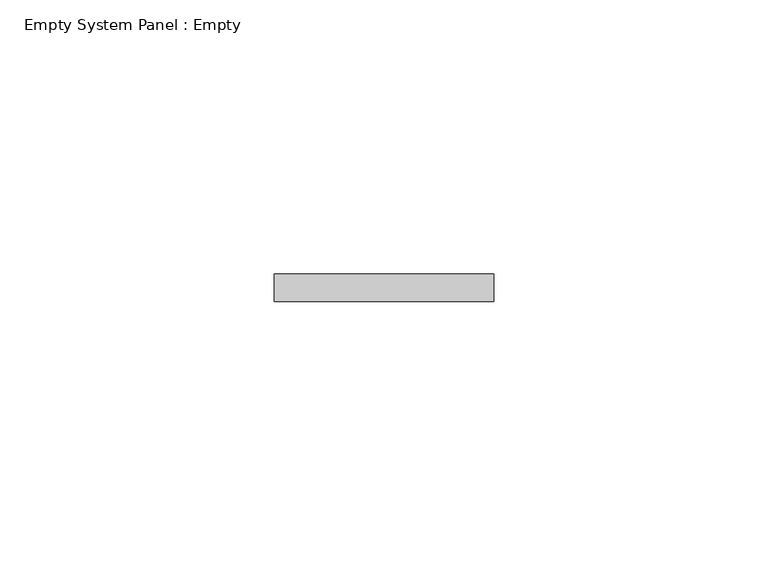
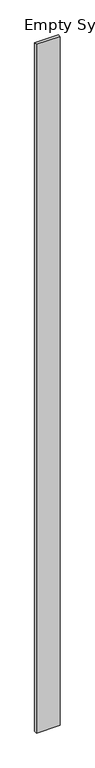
"""IFC4 building model written with IfcOpenShell, lengths in millimetres: plate geometry, Empty System Panel : Empty."""

import ifcopenshell
import ifcopenshell.guid

model = None  # the IFC model being written
_history = None  # IfcOwnerHistory: only IFC2X3 demands one
_inside = {}  # id of a spatial element -> (the spatial element, [elements in it])
_under = {}  # id of a project, library or spatial element -> (it, [spatial elements below it])
_declared = {}  # id of a project -> (the project, [libraries it declares])
_typed = {}  # id of a type object -> (the type object, [elements of that type])
_made_of = {}  # id of a material, layer set ... -> (it, [elements and type objects made of it])


def new_model(schema):
    """Start an empty IFC model of exactly this schema.

    Asked for "IFC4X3", IfcOpenShell would pick the latest addendum, in which some entities
    have other attributes; the version numbers below select the first issue.
    IFC2X3 requires an IfcOwnerHistory on every rooted entity: one is made here for all.
    """
    global model, _history
    if schema == "IFC4X3":
        model = ifcopenshell.file(schema_version=(4, 3, 0, 0))
    else:
        model = ifcopenshell.file(schema=schema)
    _inside.clear()
    _under.clear()
    _declared.clear()
    _typed.clear()
    _made_of.clear()
    _history = None
    if model.schema == "IFC2X3":
        org = make("IfcOrganization", Name="unknown")
        user = make(
            "IfcPersonAndOrganization",
            ThePerson=make("IfcPerson", FamilyName="unknown"),
            TheOrganization=org,
        )
        app = make(
            "IfcApplication",
            ApplicationDeveloper=org,
            Version="unknown",
            ApplicationFullName="unknown",
            ApplicationIdentifier="unknown",
        )
        _history = make(
            "IfcOwnerHistory",
            OwningUser=user,
            OwningApplication=app,
            ChangeAction="ADDED",
            CreationDate=0,
        )
    return model


def make(cls, **values):
    """One entity of the class cls with the attributes given. An attribute that is None is left unset."""
    return model.create_entity(
        cls, **{name: value for name, value in values.items() if value is not None}
    )


def rooted(cls, **values):
    """An entity with a GlobalId (a new one), such as an element, a storey or a relation."""
    return make(cls, GlobalId=ifcopenshell.guid.new(), OwnerHistory=_history, **values)


def si_unit(unit_type, name, prefix=None):
    """IfcSIUnit, for example si_unit("LENGTHUNIT", "METRE", prefix="MILLI")."""
    return make("IfcSIUnit", UnitType=unit_type, Prefix=prefix, Name=name)


def assignment(units):
    """IfcUnitAssignment: the units of a project."""
    return None if units is None else make("IfcUnitAssignment", Units=units)


def point(xyz):
    """IfcCartesianPoint."""
    return None if xyz is None else make("IfcCartesianPoint", Coordinates=xyz)


def direction(xyz):
    """IfcDirection."""
    return None if xyz is None else make("IfcDirection", DirectionRatios=xyz)


def frame(location, z_axis=None, x_axis=None):
    """IfcAxis2Placement3D, a coordinate frame: its origin and axes. An axis left out is left unset."""
    return make(
        "IfcAxis2Placement3D",
        Location=point(location),
        Axis=direction(z_axis),
        RefDirection=direction(x_axis),
    )


def origin():
    """The frame at (0, 0, 0) with its axes left unset."""
    return frame((0.0, 0.0, 0.0))


def origin_with_axes():
    """The frame at (0, 0, 0) with the z axis (0, 0, 1) and the x axis (1, 0, 0) written out."""
    return frame((0.0, 0.0, 0.0), z_axis=(0.0, 0.0, 1.0), x_axis=(1.0, 0.0, 0.0))


def place(relative_to, where):
    """IfcLocalPlacement: puts the frame where relative to a parent placement (None: the world)."""
    return make(
        "IfcLocalPlacement", PlacementRelTo=relative_to, RelativePlacement=where
    )


def context(
    kind, dimensions, precision=None, world=None, true_north=None, identifier=None
):
    """IfcGeometricRepresentationContext, for example the 3D "Model" context."""
    return make(
        "IfcGeometricRepresentationContext",
        ContextIdentifier=identifier,
        ContextType=kind,
        CoordinateSpaceDimension=dimensions,
        Precision=precision,
        WorldCoordinateSystem=world,
        TrueNorth=true_north,
    )


def project(units=None, contexts=None):
    """IfcProject with its units and contexts."""
    return rooted(
        "IfcProject",
        Name="project",
        RepresentationContexts=contexts,
        UnitsInContext=assignment(units),
    )


def spatial(cls, under=None, at=None, **own):
    """A site, building, storey or space (cls), placed at a placement, below another one or the project."""
    s = rooted(cls, ObjectPlacement=at, **own)
    if under is not None:
        _under.setdefault(under.id(), (under, []))[1].append(s)
    return s


def polyline(points):
    """IfcPolyline through the points."""
    return make("IfcPolyline", Points=[point(p) for p in points])


def outline(outer, holes=None, kind="AREA"):
    """IfcArbitraryClosedProfileDef: a profile drawn as a closed curve; with holes, ...WithVoids."""
    if holes is None:
        return make("IfcArbitraryClosedProfileDef", ProfileType=kind, OuterCurve=outer)
    return make(
        "IfcArbitraryProfileDefWithVoids",
        ProfileType=kind,
        OuterCurve=outer,
        InnerCurves=holes,
    )


def extrude(swept, where, along, depth):
    """IfcExtrudedAreaSolid: the profile swept, set in the frame where, extruded along a direction by depth."""
    return make(
        "IfcExtrudedAreaSolid",
        SweptArea=swept,
        Position=where,
        ExtrudedDirection=direction(along),
        Depth=depth,
    )


def shape(context_of_items, identifier, shape_type, items):
    """IfcShapeRepresentation: the items that make up one representation, for example the "Body"."""
    return make(
        "IfcShapeRepresentation",
        ContextOfItems=context_of_items,
        RepresentationIdentifier=identifier,
        RepresentationType=shape_type,
        Items=items,
    )


def source(mapping_origin, context_of_items, identifier, shape_type, items):
    """IfcRepresentationMap: a shape defined once, which mapped items show again and again."""
    return make(
        "IfcRepresentationMap",
        MappingOrigin=mapping_origin,
        MappedRepresentation=shape(context_of_items, identifier, shape_type, items),
    )


def transform(
    local_origin,
    x_axis=None,
    y_axis=None,
    z_axis=None,
    scale=None,
    scale2=None,
    scale3=None,
    uniform=True,
):
    """IfcCartesianTransformationOperator3D, or its non-uniform kind. x_axis, y_axis, z_axis: its Axis1, 2, 3."""
    if uniform:
        return make(
            "IfcCartesianTransformationOperator3D",
            Axis1=direction(x_axis),
            Axis2=direction(y_axis),
            LocalOrigin=point(local_origin),
            Scale=scale,
            Axis3=direction(z_axis),
        )
    return make(
        "IfcCartesianTransformationOperator3DnonUniform",
        Axis1=direction(x_axis),
        Axis2=direction(y_axis),
        LocalOrigin=point(local_origin),
        Scale=scale,
        Axis3=direction(z_axis),
        Scale2=scale2,
        Scale3=scale3,
    )


def mapped(mapping_source, mapping_target):
    """IfcMappedItem: shows the shape of a source again, moved by a transform."""
    return make(
        "IfcMappedItem", MappingSource=mapping_source, MappingTarget=mapping_target
    )


def made_of(thing, what):
    """Note that an element or type object is made of a material, layer set ...; save() writes the relation."""
    if what is not None:
        _made_of.setdefault(what.id(), (what, []))[1].append(thing)
    return thing


def element(
    cls,
    number,
    at=None,
    inside=None,
    cuts=None,
    type_object=None,
    material=None,
    context=None,
    identifier="Body",
    shape_type=None,
    held_by="IfcProductDefinitionShape",
    body=None,
    shapes=None,
    **own,
):
    """One element of the class cls, such as IfcWall. Its Tag is "e" and its number.

    at: its placement. inside: the storey or other place that contains it. cuts: it is an
    opening in that element (IfcRelVoidsElement). A single representation is given by context,
    identifier, shape_type and body (its items); several are given by shapes. held_by: the class
    of the entity that holds the representations. save() writes the other relations.
    """
    e = rooted(cls, Tag="e%d" % number, ObjectPlacement=at, **own)
    if body is not None:
        shapes = [shape(context, identifier, shape_type, body)]
    if shapes is not None:
        e.Representation = make(held_by, Representations=shapes)
    if inside is not None:
        _inside.setdefault(inside.id(), (inside, []))[1].append(e)
    if cuts is not None:
        rooted(
            "IfcRelVoidsElement", RelatingBuildingElement=cuts, RelatedOpeningElement=e
        )
    if type_object is not None:
        _typed.setdefault(type_object.id(), (type_object, []))[1].append(e)
    return made_of(e, material)


def aggregate(whole, parts):
    """IfcRelAggregates: a whole, such as a stair, and the parts it consists of."""
    return rooted("IfcRelAggregates", RelatingObject=whole, RelatedObjects=parts)


def save(model, path):
    """Write the relations noted so far, then the file.

    IfcRelAggregates (storeys below a building ...), IfcRelContainedInSpatialStructure (elements
    in a storey), IfcRelDefinesByType, IfcRelAssociatesMaterial and IfcRelDeclares: one each for
    every whole, place, type object, material and project.
    """
    for whole, parts in _under.values():
        aggregate(whole, parts)
    for where, things in _inside.values():
        rooted(
            "IfcRelContainedInSpatialStructure",
            RelatedElements=things,
            RelatingStructure=where,
        )
    for kind, things in _typed.values():
        rooted("IfcRelDefinesByType", RelatedObjects=things, RelatingType=kind)
    for what, things in _made_of.values():
        rooted("IfcRelAssociatesMaterial", RelatedObjects=things, RelatingMaterial=what)
    for by, libraries in _declared.values():
        rooted("IfcRelDeclares", RelatingContext=by, RelatedDefinitions=libraries)
    model.write(path)


def empty_system_panel_empty_5e3e958f(model_context):
    return source(origin(), model_context, "Body", "SweptSolid", [
        extrude(outline(polyline([(19.9999998, 97.5), (-19.9999998, 97.5), (-19.9999998, 102.5), (19.9999998, 102.5), (19.9999998, 97.5)])), origin_with_axes(), (0.0, 0.0, 1.0), 1225.5020157),
    ])


if __name__ == "__main__":
    model = new_model("IFC4")
    model_context = context("Model", 3, world=origin())
    ifc_project = project(units=[si_unit("LENGTHUNIT", "METRE", prefix="MILLI")], contexts=[model_context])
    site = spatial("IfcSite", under=ifc_project)
    building = spatial("IfcBuilding", under=site)
    placement = place(None, origin())
    empty_system_panel_empty_shape = empty_system_panel_empty_5e3e958f(model_context)
    element("IfcPlate", 1, ObjectType="Empty System Panel : Empty", at=placement, inside=building, context=model_context, shape_type="MappedRepresentation", body=[
        mapped(empty_system_panel_empty_shape, transform((0.0, 0.0, 0.0), x_axis=(1.0, 0.0, 0.0), y_axis=(0.0, 1.0, 0.0), z_axis=(0.0, 0.0, 1.0))),
    ])
    save(model, "model.ifc")
